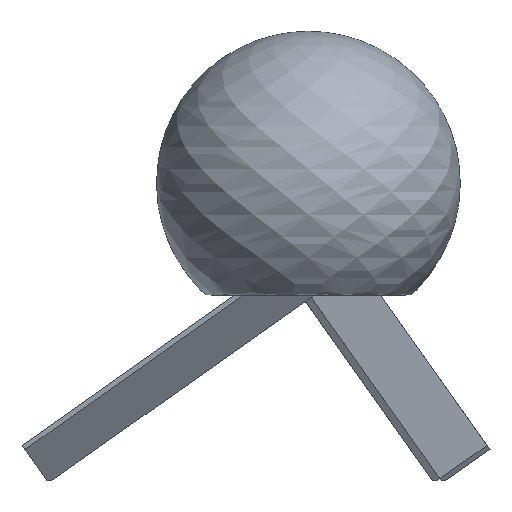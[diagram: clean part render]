
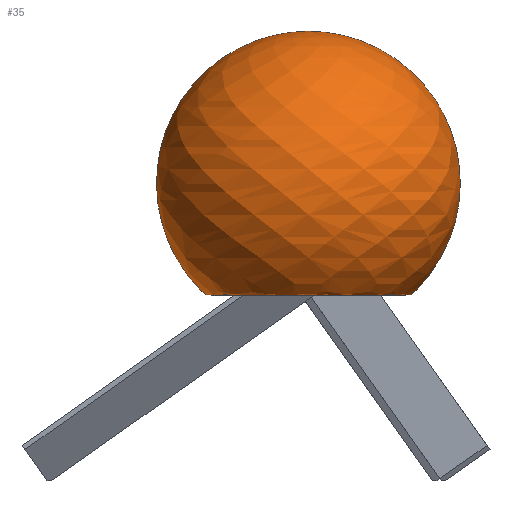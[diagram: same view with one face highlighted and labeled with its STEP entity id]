
A CAD part, left-side view. The second image highlights one B-rep face of the part: STEP entity #35.
In plain terms, the highlighted free-form (B-spline) face has degree [2, 2] with [5, 9] control points.
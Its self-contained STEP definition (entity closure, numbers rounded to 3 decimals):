
#35=ADVANCED_FACE('',(#56),#322,.T.);
#56=FACE_OUTER_BOUND('',#78,.T.);
#78=EDGE_LOOP('',(#178,#179,#180));
#178=ORIENTED_EDGE('',*,*,#234,.T.);
#179=ORIENTED_EDGE('',*,*,#229,.F.);
#180=ORIENTED_EDGE('',*,*,#230,.T.);
#229=EDGE_CURVE('',#319,#320,#236,.T.);
#230=EDGE_CURVE('',#319,#321,#237,.T.);
#234=EDGE_CURVE('',#321,#320,#238,.T.);
#236=(
BOUNDED_CURVE()
B_SPLINE_CURVE(2,(#670,#671,#672,#673,#674,#675,#676,#677,#678),
 .UNSPECIFIED.,.F.,.F.)
B_SPLINE_CURVE_WITH_KNOTS((3,2,2,2,3),(847.814,850.613,
855.221,973.902,1092.584),.UNSPECIFIED.)
CURVE()
GEOMETRIC_REPRESENTATION_ITEM()
RATIONAL_B_SPLINE_CURVE((1.,1.,1.,0.927,1.,0.829,
1.,0.829,1.))
REPRESENTATION_ITEM('')
);
#237=(
BOUNDED_CURVE()
B_SPLINE_CURVE(2,(#679,#680,#681,#682,#683),.UNSPECIFIED.,.F.,.F.)
B_SPLINE_CURVE_WITH_KNOTS((3,2,3),(0.,157.063,314.127),
 .UNSPECIFIED.)
CURVE()
GEOMETRIC_REPRESENTATION_ITEM()
RATIONAL_B_SPLINE_CURVE((1.,0.707,1.,0.707,1.))
REPRESENTATION_ITEM('')
);
#238=(
BOUNDED_CURVE()
B_SPLINE_CURVE(2,(#690,#691,#692,#693,#694,#695,#696,#697,#698),
 .UNSPECIFIED.,.F.,.F.)
B_SPLINE_CURVE_WITH_KNOTS((3,2,2,2,3),(847.814,850.613,
855.221,973.902,1092.584),.UNSPECIFIED.)
CURVE()
GEOMETRIC_REPRESENTATION_ITEM()
RATIONAL_B_SPLINE_CURVE((1.,1.,1.,0.927,1.,0.829,
1.,0.829,1.))
REPRESENTATION_ITEM('')
);
#319=VERTEX_POINT('',#547);
#320=VERTEX_POINT('',#548);
#321=VERTEX_POINT('',#549);
#322=(
BOUNDED_SURFACE()
B_SPLINE_SURFACE(2,2,((#426,#427,#428,#429,#430,#431,#432,#433,#434),(#435,
#436,#437,#438,#439,#440,#441,#442,#443),(#444,#445,#446,#447,#448,#449,
#450,#451,#452),(#453,#454,#455,#456,#457,#458,#459,#460,#461),(#462,#463,
#464,#465,#466,#467,#468,#469,#470)),.UNSPECIFIED.,.F.,.F.,.F.)
B_SPLINE_SURFACE_WITH_KNOTS((3,2,3),(3,2,2,2,3),(0.,157.063,314.127),
(847.814,850.613,855.221,973.902,1092.584),
 .UNSPECIFIED.)
GEOMETRIC_REPRESENTATION_ITEM()
RATIONAL_B_SPLINE_SURFACE(((1.,1.,1.,0.927,1.,0.829,
1.,0.829,1.),(0.707,0.707,0.707,
0.656,0.707,0.586,0.707,
0.586,0.707),(1.,1.,1.,0.927,1.,0.829,
1.,0.829,1.),(0.707,0.707,0.707,
0.656,0.707,0.586,0.707,
0.586,0.707),(1.,1.,1.,0.927,1.,0.829,
1.,0.829,1.)))
REPRESENTATION_ITEM('')
SURFACE()
);
#426=CARTESIAN_POINT('',(0.,62.5,122.238));
#427=CARTESIAN_POINT('',(0.,63.899,122.238));
#428=CARTESIAN_POINT('',(0.,65.299,122.238));
#429=CARTESIAN_POINT('',(0.,67.723,122.238));
#430=CARTESIAN_POINT('',(0.,69.467,123.922));
#431=CARTESIAN_POINT('',(0.,117.986,170.777));
#432=CARTESIAN_POINT('',(0.,92.718,233.316));
#433=CARTESIAN_POINT('',(0.,67.45,295.854));
#434=CARTESIAN_POINT('',(0.,0.,295.854));
#435=CARTESIAN_POINT('',(-62.5,62.5,122.238));
#436=CARTESIAN_POINT('',(-63.899,63.899,122.238));
#437=CARTESIAN_POINT('',(-65.299,65.299,122.238));
#438=CARTESIAN_POINT('',(-67.723,67.723,122.238));
#439=CARTESIAN_POINT('',(-69.467,69.467,123.922));
#440=CARTESIAN_POINT('',(-117.986,117.986,170.777));
#441=CARTESIAN_POINT('',(-92.718,92.718,233.316));
#442=CARTESIAN_POINT('',(-67.45,67.45,295.854));
#443=CARTESIAN_POINT('',(0.,0.,295.854));
#444=CARTESIAN_POINT('',(-62.5,0.,122.238));
#445=CARTESIAN_POINT('',(-63.899,0.,122.238));
#446=CARTESIAN_POINT('',(-65.299,0.,122.238));
#447=CARTESIAN_POINT('',(-67.723,0.,122.238));
#448=CARTESIAN_POINT('',(-69.467,0.,123.922));
#449=CARTESIAN_POINT('',(-117.986,0.,170.777));
#450=CARTESIAN_POINT('',(-92.718,0.,233.316));
#451=CARTESIAN_POINT('',(-67.45,0.,295.854));
#452=CARTESIAN_POINT('',(0.,0.,295.854));
#453=CARTESIAN_POINT('',(-62.5,-62.5,122.238));
#454=CARTESIAN_POINT('',(-63.899,-63.899,122.238));
#455=CARTESIAN_POINT('',(-65.299,-65.299,122.238));
#456=CARTESIAN_POINT('',(-67.723,-67.723,122.238));
#457=CARTESIAN_POINT('',(-69.467,-69.467,123.922));
#458=CARTESIAN_POINT('',(-117.986,-117.986,170.777));
#459=CARTESIAN_POINT('',(-92.718,-92.718,233.316));
#460=CARTESIAN_POINT('',(-67.45,-67.45,295.854));
#461=CARTESIAN_POINT('',(0.,0.,295.854));
#462=CARTESIAN_POINT('',(0.,-62.5,122.238));
#463=CARTESIAN_POINT('',(0.,-63.899,122.238));
#464=CARTESIAN_POINT('',(0.,-65.299,122.238));
#465=CARTESIAN_POINT('',(0.,-67.723,122.238));
#466=CARTESIAN_POINT('',(0.,-69.467,123.922));
#467=CARTESIAN_POINT('',(0.,-117.986,170.777));
#468=CARTESIAN_POINT('',(0.,-92.718,233.316));
#469=CARTESIAN_POINT('',(0.,-67.45,295.854));
#470=CARTESIAN_POINT('',(0.,0.,295.854));
#547=CARTESIAN_POINT('',(0.,62.5,122.238));
#548=CARTESIAN_POINT('',(0.,0.,295.854));
#549=CARTESIAN_POINT('',(0.,-62.5,122.238));
#670=CARTESIAN_POINT('',(0.,62.5,122.238));
#671=CARTESIAN_POINT('',(0.,63.899,122.238));
#672=CARTESIAN_POINT('',(0.,65.299,122.238));
#673=CARTESIAN_POINT('',(0.,67.723,122.238));
#674=CARTESIAN_POINT('',(0.,69.467,123.922));
#675=CARTESIAN_POINT('',(0.,117.986,170.777));
#676=CARTESIAN_POINT('',(0.,92.718,233.316));
#677=CARTESIAN_POINT('',(0.,67.45,295.854));
#678=CARTESIAN_POINT('',(0.,0.,295.854));
#679=CARTESIAN_POINT('',(0.,62.5,122.238));
#680=CARTESIAN_POINT('',(-62.5,62.5,122.238));
#681=CARTESIAN_POINT('',(-62.5,0.,122.238));
#682=CARTESIAN_POINT('',(-62.5,-62.5,122.238));
#683=CARTESIAN_POINT('',(0.,-62.5,122.238));
#690=CARTESIAN_POINT('',(0.,-62.5,122.238));
#691=CARTESIAN_POINT('',(0.,-63.899,122.238));
#692=CARTESIAN_POINT('',(0.,-65.299,122.238));
#693=CARTESIAN_POINT('',(0.,-67.723,122.238));
#694=CARTESIAN_POINT('',(0.,-69.467,123.922));
#695=CARTESIAN_POINT('',(0.,-117.986,170.777));
#696=CARTESIAN_POINT('',(0.,-92.718,233.316));
#697=CARTESIAN_POINT('',(0.,-67.45,295.854));
#698=CARTESIAN_POINT('',(0.,0.,295.854));
